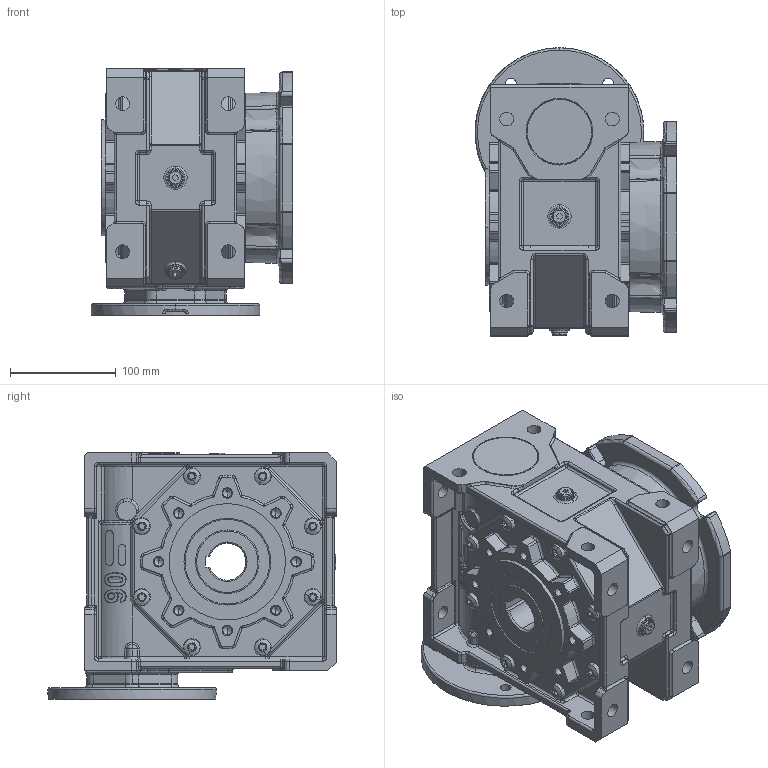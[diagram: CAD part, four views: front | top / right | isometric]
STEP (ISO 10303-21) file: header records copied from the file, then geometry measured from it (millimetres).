
FILE_DESCRIPTION (( 'STEP AP214' ), '1' );
FILE_NAME ('MKT90-FFL-100-130.STEP', '2006-05-10T09:09:30', ( '' ), ( '' ), 'SwSTEP 2.0', 'SolidWorks 2004146', '' );
FILE_SCHEMA (( 'AUTOMOTIVE_DESIGN' ));
Length unit declared in the file: millimetre
Products named in the file (6): Pøíruba FF MKT 90_Výchozí; Skrin MKT90_MKT90 AP100; D6912_Šroub DIN 6912 - M10x25; D6912_Šroub DIN 6912 - M6x25; MKT90-FFL-100-130; pøíruba130 d72 MRT80a_Výchozí
Assembly tree (13 placements, depth 2):
  MKT90-FFL-100-130
    pøíruba130 d72 MRT80a_Výchozí
    Pøíruba FF MKT 90_Výchozí
    Skrin MKT90_MKT90 AP100
    D6912_Šroub DIN 6912 - M6x25  x6
    D6912_Šroub DIN 6912 - M10x25  x4
Bounding box: 190.72 x 272.81 x 233 mm (x, y, z)
Volume: 5268260.3 mm3; surface area: 483287.9 mm2
Topology: 13 solids, 13 shells, 3053 faces, 7234 edges, 4089 vertices
Faces by surface type: cylinder 1102, plane 578, torus 534, bspline 396, cone 252, sphere 191
Entity records: 332620 total; most frequent: CARTESIAN_POINT 266461, DIRECTION 13507, ORIENTED_EDGE 12880, EDGE_CURVE 6440, AXIS2_PLACEMENT_3D 5667, VERTEX_POINT 3803, CIRCLE 3290, EDGE_LOOP 2929
